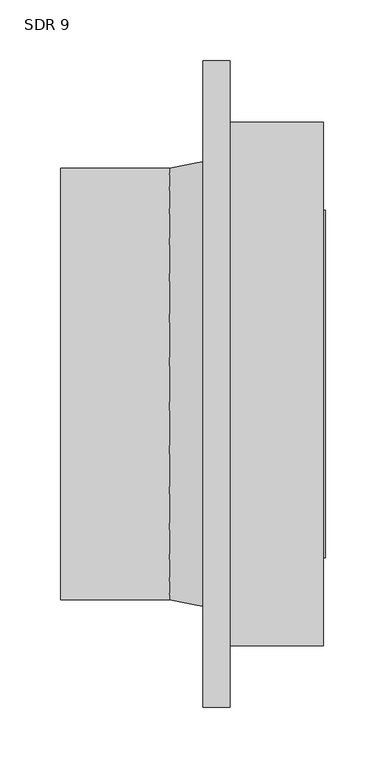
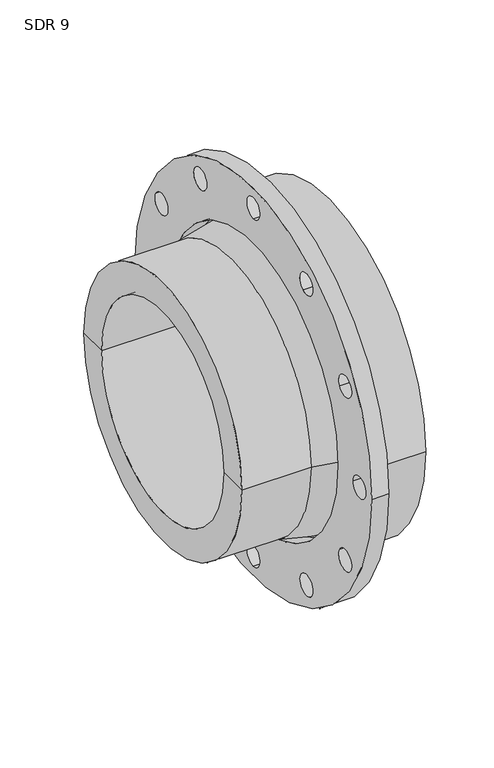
"""IFC4 building model written with IfcOpenShell, lengths in millimetres: valve geometry, Aquatherm - Flange Adapter Butt-Weld : SDR 9."""

from ifc_helpers import new_model, si_unit, point, frame, frame_2d, origin, origin_2d, place, context, project, spatial, polyline, circle_curve, trimmed, segment, composite_curve, outline, extrude, source, transform, mapped, element, save
from ifc_brep_helpers import plane_surface, cylinder_surface, revolved_surface, advanced_brep


def sdr_9_6240d636(model_context):
    return source(origin(), model_context, "Body", "SolidModel", [
        extrude(outline(composite_curve([segment(trimmed(circle_curve(origin_2d(), 266.7), [point((-266.7, 0.0))], [point((266.7, 0.0))], False, "CARTESIAN"), True, "CONTINUOUS"), segment(trimmed(circle_curve(origin_2d(), 266.7), [point((266.7, 0.0))], [point((-266.7, 0.0))], False, "CARTESIAN"), True, "CONTINUOUS")], self_intersect=False), holes=[composite_curve([segment(trimmed(circle_curve(origin_2d(), 190.5), [point((-190.5, 0.0))], [point((190.5, 0.0))], True, "CARTESIAN"), True, "CONTINUOUS"), segment(trimmed(circle_curve(origin_2d(), 190.5), [point((190.5, 0.0))], [point((-190.5, 0.0))], True, "CARTESIAN"), True, "CONTINUOUS")], self_intersect=False), composite_curve([segment(trimmed(circle_curve(frame_2d((238.76, 0.0)), 14.351), [point((224.409, 0.0))], [point((253.111, 0.0))], True, "CARTESIAN"), True, "CONTINUOUS"), segment(trimmed(circle_curve(frame_2d((238.76, 0.0)), 14.351), [point((253.111, 0.0))], [point((224.409, 0.0))], True, "CARTESIAN"), True, "CONTINUOUS")], self_intersect=False), composite_curve([segment(trimmed(circle_curve(frame_2d((206.7722254, -119.38)), 14.351), [point((194.3438948, -112.2045))], [point((219.200556, -126.5555))], True, "CARTESIAN"), True, "CONTINUOUS"), segment(trimmed(circle_curve(frame_2d((206.7722254, -119.38)), 14.351), [point((219.200556, -126.5555))], [point((194.3438948, -112.2045))], True, "CARTESIAN"), True, "CONTINUOUS")], self_intersect=False), composite_curve([segment(trimmed(circle_curve(frame_2d((206.7722254, 119.38)), 14.351), [point((194.3438948, 112.2045))], [point((219.200556, 126.5555))], True, "CARTESIAN"), True, "CONTINUOUS"), segment(trimmed(circle_curve(frame_2d((206.7722254, 119.38)), 14.351), [point((219.200556, 126.5555))], [point((194.3438948, 112.2045))], True, "CARTESIAN"), True, "CONTINUOUS")], self_intersect=False), composite_curve([segment(trimmed(circle_curve(frame_2d((119.38, 206.7722254)), 14.351), [point((112.2045, 194.3438948))], [point((126.5555, 219.200556))], True, "CARTESIAN"), True, "CONTINUOUS"), segment(trimmed(circle_curve(frame_2d((119.38, 206.7722254)), 14.351), [point((126.5555, 219.200556))], [point((112.2045, 194.3438948))], True, "CARTESIAN"), True, "CONTINUOUS")], self_intersect=False), composite_curve([segment(trimmed(circle_curve(frame_2d((0.0, 238.76)), 14.351), [point((0.0, 224.409))], [point((0.0, 253.111))], True, "CARTESIAN"), True, "CONTINUOUS"), segment(trimmed(circle_curve(frame_2d((0.0, 238.76)), 14.351), [point((0.0, 253.111))], [point((0.0, 224.409))], True, "CARTESIAN"), True, "CONTINUOUS")], self_intersect=False), composite_curve([segment(trimmed(circle_curve(frame_2d((-119.38, 206.7722254)), 14.351), [point((-112.2045, 194.3438948))], [point((-126.5555, 219.200556))], True, "CARTESIAN"), True, "CONTINUOUS"), segment(trimmed(circle_curve(frame_2d((-119.38, 206.7722254)), 14.351), [point((-126.5555, 219.200556))], [point((-112.2045, 194.3438948))], True, "CARTESIAN"), True, "CONTINUOUS")], self_intersect=False), composite_curve([segment(trimmed(circle_curve(frame_2d((-206.7722254, 119.38)), 14.351), [point((-194.3438948, 112.2045))], [point((-219.200556, 126.5555))], True, "CARTESIAN"), True, "CONTINUOUS"), segment(trimmed(circle_curve(frame_2d((-206.7722254, 119.38)), 14.351), [point((-219.200556, 126.5555))], [point((-194.3438948, 112.2045))], True, "CARTESIAN"), True, "CONTINUOUS")], self_intersect=False), composite_curve([segment(trimmed(circle_curve(frame_2d((-238.76, 0.0)), 14.351), [point((-224.409, 0.0))], [point((-253.111, 0.0))], True, "CARTESIAN"), True, "CONTINUOUS"), segment(trimmed(circle_curve(frame_2d((-238.76, 0.0)), 14.351), [point((-253.111, 0.0))], [point((-224.409, 0.0))], True, "CARTESIAN"), True, "CONTINUOUS")], self_intersect=False), composite_curve([segment(trimmed(circle_curve(frame_2d((-206.7722254, -119.38)), 14.351), [point((-194.3438948, -112.2045))], [point((-219.200556, -126.5555))], True, "CARTESIAN"), True, "CONTINUOUS"), segment(trimmed(circle_curve(frame_2d((-206.7722254, -119.38)), 14.351), [point((-219.200556, -126.5555))], [point((-194.3438948, -112.2045))], True, "CARTESIAN"), True, "CONTINUOUS")], self_intersect=False), composite_curve([segment(trimmed(circle_curve(frame_2d((-119.38, -206.7722254)), 14.351), [point((-112.2045, -194.3438948))], [point((-126.5555, -219.200556))], True, "CARTESIAN"), True, "CONTINUOUS"), segment(trimmed(circle_curve(frame_2d((-119.38, -206.7722254)), 14.351), [point((-126.5555, -219.200556))], [point((-112.2045, -194.3438948))], True, "CARTESIAN"), True, "CONTINUOUS")], self_intersect=False), composite_curve([segment(trimmed(circle_curve(frame_2d((0.0, -238.76)), 14.351), [point((0.0, -224.409))], [point((0.0, -253.111))], True, "CARTESIAN"), True, "CONTINUOUS"), segment(trimmed(circle_curve(frame_2d((0.0, -238.76)), 14.351), [point((0.0, -253.111))], [point((0.0, -224.409))], True, "CARTESIAN"), True, "CONTINUOUS")], self_intersect=False), composite_curve([segment(trimmed(circle_curve(frame_2d((119.38, -206.7722254)), 14.351), [point((112.2045, -194.3438948))], [point((126.5555, -219.200556))], True, "CARTESIAN"), True, "CONTINUOUS"), segment(trimmed(circle_curve(frame_2d((119.38, -206.7722254)), 14.351), [point((126.5555, -219.200556))], [point((112.2045, -194.3438948))], True, "CARTESIAN"), True, "CONTINUOUS")], self_intersect=False)]), frame((-22.352, 0.0, 0.0), z_axis=(1.0, 0.0, 0.0), x_axis=(0.0, 1.0, 0.0)), (0.0, 0.0, 1.0), 22.352),
        advanced_brep(
        [(76.962, 215.9, 0.0), (76.962, -215.9, 0.0), (0.0, -215.9, 0.0), (0.0, 215.9, 0.0), (78.5495, 138.176, 0.0), (78.5495, -138.176, 0.0), (78.5495, -143.256, 0.0), (78.5495, 143.256, 0.0), (-139.954, 138.176, 0.0), (-139.954, -138.176, 0.0), (-139.954, 177.8, 0.0), (-139.954, -177.8, 0.0), (-50.038, 177.8, 0.0), (-50.038, -177.8, 0.0), (0.0, -187.96, 0.0), (0.0, 187.96, 0.0), (76.962, 143.256, 0.0), (76.962, -143.256, 0.0)],
        [
            (0, 1, circle_curve(frame((76.962, 0.0, 0.0), z_axis=(-1.0, 0.0, 0.0), x_axis=(0.0, -1.0, 0.0)), 215.9)),
            (1, 2),
            (2, 3, circle_curve(frame((0.0, 0.0, 0.0), z_axis=(1.0, 0.0, 0.0), x_axis=(0.0, -1.0, 0.0)), 215.9)),
            (3, 0),
            (1, 0, circle_curve(frame((76.962, 0.0, 0.0), z_axis=(-1.0, 0.0, 0.0), x_axis=(0.0, -1.0, 0.0)), 215.9)),
            (3, 2, circle_curve(frame((0.0, 0.0, 0.0), z_axis=(1.0, 0.0, 0.0), x_axis=(0.0, -1.0, 0.0)), 215.9)),
            (4, 5, circle_curve(frame((78.5495, 0.0, 0.0), z_axis=(-1.0, 0.0, 0.0), x_axis=(0.0, -1.0, 0.0)), 138.176)),
            (5, 6),
            (6, 7, circle_curve(frame((78.5495, 0.0, 0.0), z_axis=(1.0, 0.0, 0.0), x_axis=(0.0, -1.0, 0.0)), 143.256)),
            (7, 4),
            (5, 4, circle_curve(frame((78.5495, 0.0, 0.0), z_axis=(-1.0, 0.0, 0.0), x_axis=(0.0, -1.0, 0.0)), 138.176)),
            (7, 6, circle_curve(frame((78.5495, 0.0, 0.0), z_axis=(1.0, 0.0, 0.0), x_axis=(0.0, -1.0, 0.0)), 143.256)),
            (8, 9, circle_curve(frame((-139.954, 0.0, 0.0), z_axis=(-1.0, 0.0, 0.0), x_axis=(0.0, -1.0, 0.0)), 138.176)),
            (9, 5),
            (4, 8),
            (9, 8, circle_curve(frame((-139.954, 0.0, 0.0), z_axis=(-1.0, 0.0, 0.0), x_axis=(0.0, -1.0, 0.0)), 138.176)),
            (10, 11, circle_curve(frame((-139.954, 0.0, 0.0), z_axis=(-1.0, 0.0, 0.0), x_axis=(0.0, -1.0, 0.0)), 177.8)),
            (11, 9),
            (8, 10),
            (11, 10, circle_curve(frame((-139.954, 0.0, 0.0), z_axis=(-1.0, 0.0, 0.0), x_axis=(0.0, -1.0, 0.0)), 177.8)),
            (12, 13, circle_curve(frame((-50.038, 0.0, 0.0), z_axis=(-1.0, 0.0, 0.0), x_axis=(0.0, -1.0, 0.0)), 177.8)),
            (13, 11),
            (10, 12),
            (13, 12, circle_curve(frame((-50.038, 0.0, 0.0), z_axis=(-1.0, 0.0, 0.0), x_axis=(0.0, -1.0, 0.0)), 177.8)),
            (2, 14),
            (14, 15, circle_curve(frame((0.0, 0.0, 0.0), z_axis=(1.0, 0.0, 0.0), x_axis=(0.0, -1.0, 0.0)), 187.96)),
            (15, 3),
            (15, 14, circle_curve(frame((0.0, 0.0, 0.0), z_axis=(1.0, 0.0, 0.0), x_axis=(0.0, -1.0, 0.0)), 187.96)),
            (16, 17, circle_curve(frame((76.962, 0.0, 0.0), z_axis=(-1.0, 0.0, 0.0), x_axis=(0.0, -1.0, 0.0)), 143.256)),
            (17, 1),
            (0, 16),
            (17, 16, circle_curve(frame((76.962, 0.0, 0.0), z_axis=(-1.0, 0.0, 0.0), x_axis=(0.0, -1.0, 0.0)), 143.256)),
            (6, 17),
            (16, 7),
            (14, 13),
            (12, 15),
        ],
        [
            cylinder_surface(frame((1517.6009321, 0.0, 0.0), z_axis=(1.0, 0.0, 0.0), x_axis=(0.0, -1.0, 0.0)), 215.9),
            plane_surface(frame((78.5495, 0.0, 0.0), z_axis=(1.0, 0.0, 0.0), x_axis=(0.0, -1.0, 0.0))),
            revolved_surface(polyline([(78.54950000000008, -138.176, 0.0), (-139.95399999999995, -138.176, 0.0)]), (1517.6009321, 0.0, 0.0), (1.0, 0.0, 0.0)),
            plane_surface(frame((-139.954, 0.0, 0.0), z_axis=(-1.0, 0.0, 0.0), x_axis=(0.0, -1.0, 0.0))),
            cylinder_surface(frame((1517.6009321, 0.0, 0.0), z_axis=(1.0, 0.0, 0.0), x_axis=(0.0, -1.0, 0.0)), 177.8),
            plane_surface(frame((0.0, 0.0, 0.0), z_axis=(-1.0, 0.0, 0.0), x_axis=(0.0, -1.0, 0.0))),
            plane_surface(frame((76.962, 0.0, 0.0), z_axis=(1.0, 0.0, 0.0), x_axis=(0.0, -1.0, 0.0))),
            cylinder_surface(frame((1517.6009321, 0.0, 0.0), z_axis=(1.0, 0.0, 0.0), x_axis=(0.0, -1.0, 0.0)), 143.256),
            revolved_surface(polyline([(-50.038, -177.8, 0.0), (0.0, -187.96, 0.0)]), (1517.6009321, 0.0, 0.0), (1.0, 0.0, 0.0)),
        ],
        [
            (0, [[1, 2, 3, 4]]),
            (0, [[5, -4, 6, -2]]),
            (1, [[7, 8, 9, 10]]),
            (1, [[11, -10, 12, -8]]),
            (2, [[13, 14, -7, 15]]),
            (2, [[16, -15, -11, -14]]),
            (3, [[17, 18, -13, 19]]),
            (3, [[20, -19, -16, -18]]),
            (4, [[21, 22, -17, 23]]),
            (4, [[24, -23, -20, -22]]),
            (5, [[-3, 25, 26, 27]]),
            (5, [[-6, -27, 28, -25]]),
            (6, [[29, 30, -1, 31]]),
            (6, [[32, -31, -5, -30]]),
            (7, [[-9, 33, -29, 34]]),
            (7, [[-12, -34, -32, -33]]),
            (8, [[-26, 35, -21, 36]]),
            (8, [[-28, -36, -24, -35]]),
        ],
    ),
    ])


if __name__ == "__main__":
    model = new_model("IFC4")
    model_context = context("Model", 3, world=origin())
    ifc_project = project(units=[si_unit("LENGTHUNIT", "METRE", prefix="MILLI")], contexts=[model_context])
    site = spatial("IfcSite", under=ifc_project)
    building = spatial("IfcBuilding", under=site)
    placement = place(None, origin())
    sdr_9_shape = sdr_9_6240d636(model_context)
    element("IfcValve", 1, ObjectType="Aquatherm - Flange Adapter Butt-Weld : SDR 9", at=placement, inside=building, context=model_context, shape_type="MappedRepresentation", body=[
        mapped(sdr_9_shape, transform((0.0, 0.0, 0.0), x_axis=(1.0, 0.0, 0.0), y_axis=(0.0, 1.0, 0.0), z_axis=(0.0, 0.0, 1.0))),
    ])
    save(model, "model.ifc")
